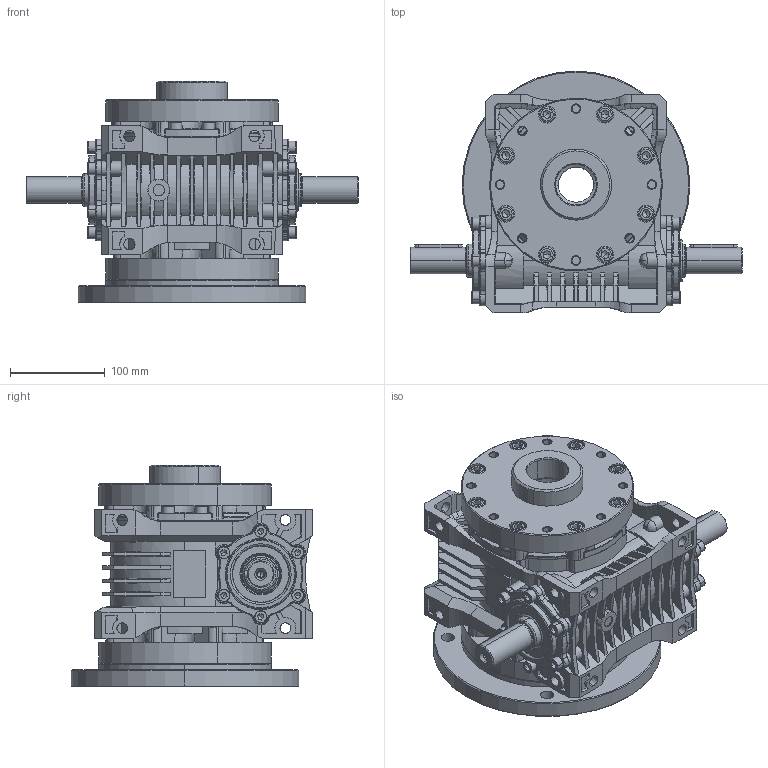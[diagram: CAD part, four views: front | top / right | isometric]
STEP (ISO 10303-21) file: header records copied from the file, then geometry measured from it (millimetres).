
FILE_DESCRIPTION (( 'STEP AP203' ), '1' );
FILE_NAME ('MRP-80_WBS2_SP_KM-1_3D.STEP', '2022-10-06T11:27:09', ( '' ), ( '' ), 'SwSTEP 2.0', 'SolidWorks 2022', '' );
FILE_SCHEMA (( 'CONFIG_CONTROL_DESIGN' ));
Products named in the file (1): MRP-80_WBS2_SP_KM-1_3D
Bounding box: 350 x 255 x 234 mm (x, y, z)
Volume: 6121305.4 mm3; surface area: 633812.2 mm2
Topology: 1 solids, 101 shells, 3663 faces, 9180 edges, 5706 vertices
Faces by surface type: plane 1468, cone 868, cylinder 717, torus 388, bspline 222
Entity records: 117014 total; most frequent: CARTESIAN_POINT 31429, ORIENTED_EDGE 17998, DIRECTION 17921, EDGE_CURVE 8999, AXIS2_PLACEMENT_3D 6900, VERTEX_POINT 5706, LINE 4121, VECTOR 4121
